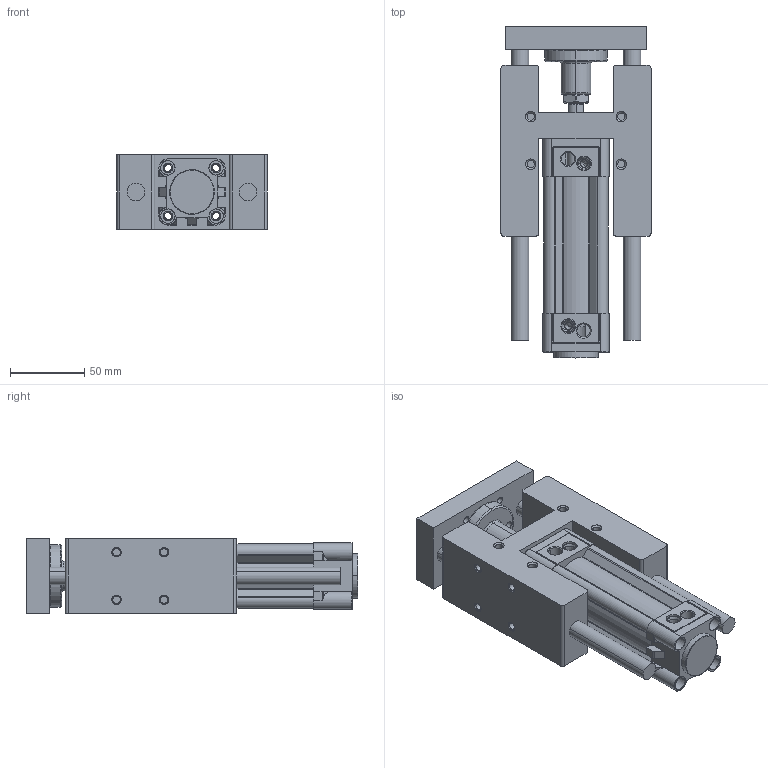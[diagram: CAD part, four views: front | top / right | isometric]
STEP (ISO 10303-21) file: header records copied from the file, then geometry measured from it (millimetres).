
FILE_DESCRIPTION (( 'STEP AP203' ), '1' );
FILE_NAME ('MDNC32X50H-YATAK.STEP', '2016-05-17T11:08:46', ( 'user' ), ( '' ), 'SwSTEP 2.0', 'SolidWorks 2013', '' );
FILE_SCHEMA (( 'CONFIG_CONTROL_DESIGN' ));
Length unit declared in the file: millimetre
Products named in the file (11): DNC-H-YATAK MÝL YATAÐI 32; SOMUN; ARKA KAPAK; 泩 KAPAK; MDNC 32X50 BORU; ORTA P¦STON; DNC-H-YATAK 32; Piston Mili 32X50; DNC-H-M尳 32X50; MDNC32X50H-YATAK; DNC-H-YATAK TABLA 32
Assembly tree (11 placements, depth 2):
  MDNC32X50H-YATAK
    DNC-H-YATAK 32
    DNC-H-M尳 32X50  x2
    DNC-H-YATAK TABLA 32
    DNC-H-YATAK MÝL YATAÐI 32
    SOMUN
    ARKA KAPAK
    泩 KAPAK
    MDNC 32X50 BORU
    ORTA P¦STON
    Piston Mili 32X50
Bounding box: 101 x 223.4 x 50.5 mm (x, y, z)
Volume: 568319.8 mm3; surface area: 176713.4 mm2
Topology: 13 solids, 14 shells, 905 faces, 2187 edges, 1374 vertices
Faces by surface type: cylinder 375, plane 225, cone 175, bspline 120, torus 10
Entity records: 40302 total; most frequent: CARTESIAN_POINT 18805, ORIENTED_EDGE 4330, DIRECTION 4081, EDGE_CURVE 2165, AXIS2_PLACEMENT_3D 1639, VERTEX_POINT 1370, EDGE_LOOP 1063, ADVANCED_FACE 901
